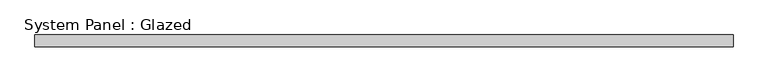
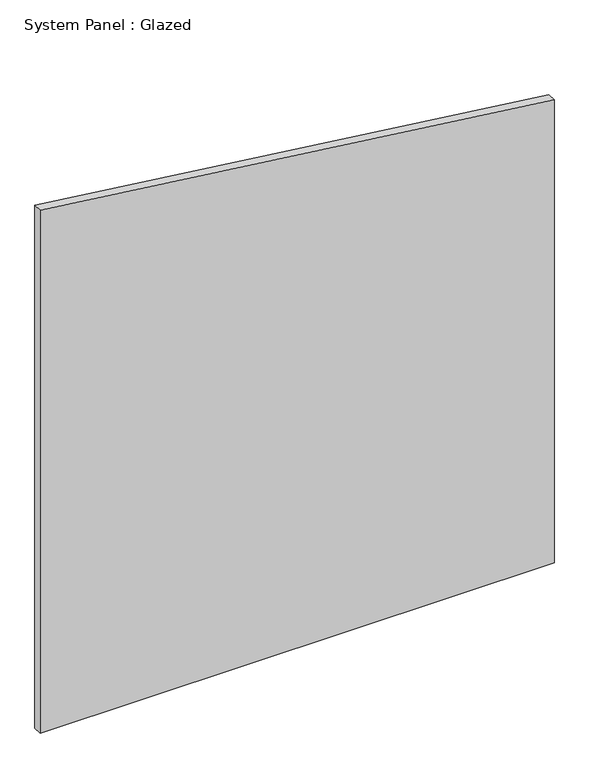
"""IFC4 building model written with IfcOpenShell, lengths in millimetres: plate geometry, System Panel : Glazed."""

from ifc_helpers import new_model, si_unit, frame, origin, place, context, project, spatial, polyline, outline, extrude, source, transform, mapped, element, save


def system_panel_glazed_ab255019(model_context):
    return source(origin(), model_context, "Body", "SweptSolid", [
        extrude(outline(polyline([(0.0, -726.9631579), (0.0, 726.9631579), (1384.9596166, 726.9631579), (1563.4793208, -726.9631579), (0.0, -726.9631579)])), frame((0.0, 24.5, 0.0), z_axis=(0.0, 1.0, 0.0), x_axis=(0.0, 0.0, 1.0)), (0.0, 0.0, 1.0), 25.0),
    ])


if __name__ == "__main__":
    model = new_model("IFC4")
    model_context = context("Model", 3, world=origin())
    ifc_project = project(units=[si_unit("LENGTHUNIT", "METRE", prefix="MILLI")], contexts=[model_context])
    site = spatial("IfcSite", under=ifc_project)
    building = spatial("IfcBuilding", under=site)
    placement = place(None, origin())
    system_panel_glazed_shape = system_panel_glazed_ab255019(model_context)
    element("IfcPlate", 1, ObjectType="System Panel : Glazed", at=placement, inside=building, context=model_context, shape_type="MappedRepresentation", body=[
        mapped(system_panel_glazed_shape, transform((0.0, 0.0, 0.0), x_axis=(1.0, 0.0, 0.0), y_axis=(0.0, 1.0, 0.0), z_axis=(0.0, 0.0, 1.0))),
    ])
    save(model, "model.ifc")
